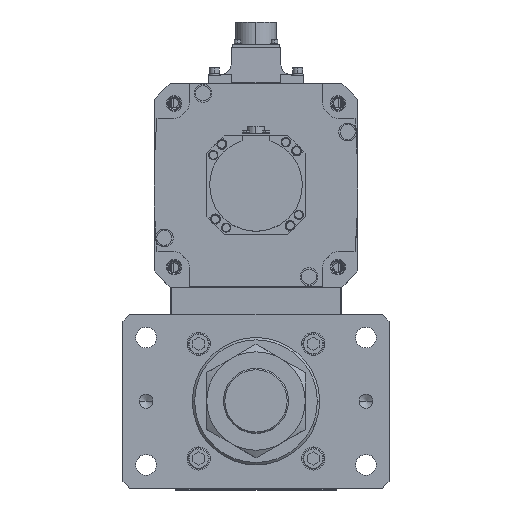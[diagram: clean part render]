
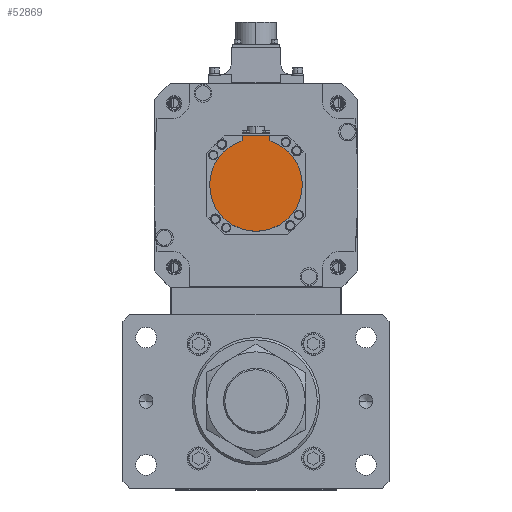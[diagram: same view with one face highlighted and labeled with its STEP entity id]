
A CAD part, top view. The second image highlights one B-rep face of the part: STEP entity #52869.
In plain terms, the highlighted planar face has unit normal (0, 0, 1) as drawn and (0, 0, -1) by its records, which use the part's own axes.
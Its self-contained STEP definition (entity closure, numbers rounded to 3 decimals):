
#1325 = VECTOR ( 'NONE', #42714, 1000. ) ;
#3245 = DIRECTION ( 'NONE',  ( 0., 0., 1. ) ) ;
#4592 = CARTESIAN_POINT ( 'NONE',  ( -12., -38.158, -162.5 ) ) ;
#5617 = CARTESIAN_POINT ( 'NONE',  ( 0., 0., -162.5 ) ) ;
#7630 = ORIENTED_EDGE ( 'NONE', *, *, #40060, .F. ) ;
#8741 = PLANE ( 'NONE',  #46026 ) ;
#8950 = FACE_OUTER_BOUND ( 'NONE', #15878, .T. ) ;
#9218 = CARTESIAN_POINT ( 'NONE',  ( 12., -42.5, -162.5 ) ) ;
#9400 = ORIENTED_EDGE ( 'NONE', *, *, #37833, .T. ) ;
#9974 = CARTESIAN_POINT ( 'NONE',  ( 12., -38.158, -162.5 ) ) ;
#12886 = ORIENTED_EDGE ( 'NONE', *, *, #26239, .T. ) ;
#15878 = EDGE_LOOP ( 'NONE', ( #9400, #30766, #46113, #27435, #7630, #12886 ) ) ;
#18383 = AXIS2_PLACEMENT_3D ( 'NONE', #27566, #3245, #19191 ) ;
#18813 = CARTESIAN_POINT ( 'NONE',  ( 0., 0., -162.5 ) ) ;
#19191 = DIRECTION ( 'NONE',  ( 1., 0., 0. ) ) ;
#20551 = CARTESIAN_POINT ( 'NONE',  ( 0., -1.249, -162.5 ) ) ;
#20902 = VECTOR ( 'NONE', #52149, 1000. ) ;
#21428 = CIRCLE ( 'NONE', #48763, 40. ) ;
#24039 = VECTOR ( 'NONE', #31797, 1000. ) ;
#24042 = VERTEX_POINT ( 'NONE', #9974 ) ;
#26239 = EDGE_CURVE ( 'NONE', #44572, #37205, #34856, .T. ) ;
#26839 = DIRECTION ( 'NONE',  ( 0., 0., 1. ) ) ;
#27435 = ORIENTED_EDGE ( 'NONE', *, *, #41597, .F. ) ;
#27566 = CARTESIAN_POINT ( 'NONE',  ( 0., 0., -162.5 ) ) ;
#28100 = VERTEX_POINT ( 'NONE', #46605 ) ;
#28458 = CARTESIAN_POINT ( 'NONE',  ( 12., -1.249, -162.5 ) ) ;
#28549 = DIRECTION ( 'NONE',  ( 1., 0., 0. ) ) ;
#30766 = ORIENTED_EDGE ( 'NONE', *, *, #39219, .F. ) ;
#31797 = DIRECTION ( 'NONE',  ( -1., 0., 0. ) ) ;
#32505 = CIRCLE ( 'NONE', #33707, 40. ) ;
#33707 = AXIS2_PLACEMENT_3D ( 'NONE', #18813, #26839, #39446 ) ;
#34116 = DIRECTION ( 'NONE',  ( 0., 0., 1. ) ) ;
#34856 = LINE ( 'NONE', #51929, #24039 ) ;
#35635 = CIRCLE ( 'NONE', #18383, 40. ) ;
#37205 = VERTEX_POINT ( 'NONE', #50631 ) ;
#37243 = DIRECTION ( 'NONE',  ( 0., 0., 1. ) ) ;
#37833 = EDGE_CURVE ( 'NONE', #37205, #40869, #44034, .T. ) ;
#39219 = EDGE_CURVE ( 'NONE', #43017, #40869, #35635, .T. ) ;
#39446 = DIRECTION ( 'NONE',  ( 1., 0., 0. ) ) ;
#40060 = EDGE_CURVE ( 'NONE', #44572, #24042, #44484, .T. ) ;
#40869 = VERTEX_POINT ( 'NONE', #4592 ) ;
#41597 = EDGE_CURVE ( 'NONE', #24042, #28100, #21428, .T. ) ;
#42325 = DIRECTION ( 'NONE',  ( 1., 0., 0. ) ) ;
#42714 = DIRECTION ( 'NONE',  ( 0., 1., 0. ) ) ;
#43017 = VERTEX_POINT ( 'NONE', #44493 ) ;
#44034 = LINE ( 'NONE', #47516, #1325 ) ;
#44484 = LINE ( 'NONE', #28458, #20902 ) ;
#44493 = CARTESIAN_POINT ( 'NONE',  ( -40., 0., -162.5 ) ) ;
#44572 = VERTEX_POINT ( 'NONE', #9218 ) ;
#46026 = AXIS2_PLACEMENT_3D ( 'NONE', #20551, #37243, #28549 ) ;
#46113 = ORIENTED_EDGE ( 'NONE', *, *, #48032, .F. ) ;
#46605 = CARTESIAN_POINT ( 'NONE',  ( 40., 0., -162.5 ) ) ;
#47516 = CARTESIAN_POINT ( 'NONE',  ( -12., -40.329, -162.5 ) ) ;
#48032 = EDGE_CURVE ( 'NONE', #28100, #43017, #32505, .T. ) ;
#48763 = AXIS2_PLACEMENT_3D ( 'NONE', #5617, #34116, #42325 ) ;
#50631 = CARTESIAN_POINT ( 'NONE',  ( -12., -42.5, -162.5 ) ) ;
#51929 = CARTESIAN_POINT ( 'NONE',  ( 0., -42.5, -162.5 ) ) ;
#52149 = DIRECTION ( 'NONE',  ( 0., 1., 0. ) ) ;
#52869 = ADVANCED_FACE ( 'NONE', ( #8950 ), #8741, .F. ) ;
